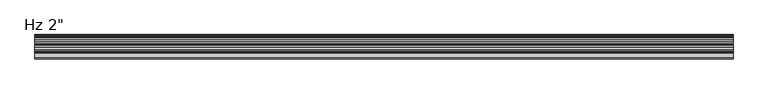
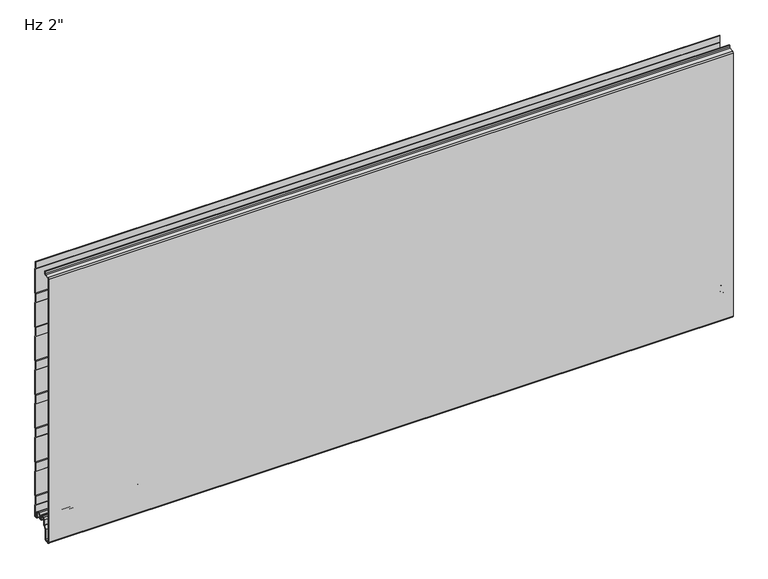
"""IFC4 building model written with IfcOpenShell, lengths in millimetres: plate geometry."""

from ifc_helpers import new_model, si_unit, point, frame, frame_2d, origin, place, context, project, spatial, polyline, circle_curve, trimmed, segment, composite_curve, outline, extrude, source, transform, mapped, element, save
from ifc_brep_helpers import plane_surface, cylinder_surface, revolved_surface, advanced_brep


def plate_7ebf2205(model_context):
    return source(origin(), model_context, "Body", "SolidModel", [
        advanced_brep(
        [(-730.0, -17.0015368, 2.0313088), (-730.0, -18.00154, 1.0313116), (-730.0, -19.0015313, 2.0313088), (-730.0, -19.0015314, 6.0315125), (-730.0, -18.0015368, 6.0315125), (-730.0, -18.0015368, 8.7237223), (-730.0, -14.7015411, 12.023718), (-730.0, -10.3015499, 12.023718), (-730.0, -7.0015544, 8.7237225), (-730.0, -7.0015544, -1.6962564), (-730.0, -5.2315602, -3.4662506), (-730.0, -1.0000126, -3.4662506), (-730.0, -1.0000126, 21.034026), (-730.0, -2.2002516, 22.4196686), (-730.0, -2.2002516, 41.7948349), (-730.0, -1.0000209, 43.1804679), (-730.0, -1.0000209, 97.2338833), (-730.0, -2.2002516, 98.6195162), (-730.0, -2.2002516, 117.9946825), (-730.0, -1.0000209, 119.3803155), (-730.0, -1.0000209, 173.4337309), (-730.0, -2.2002516, 174.8193638), (-730.0, -2.2002516, 194.1945301), (-730.0, -1.0000209, 195.5801631), (-730.0, -1.0000209, 249.6335785), (-730.0, -2.2002516, 251.0192114), (-730.0, -2.2002516, 270.3943777), (-730.0, -1.0000209, 271.7800107), (-730.0, -1.0000209, 325.8334261), (-730.0, -2.2002516, 327.219059), (-730.0, -2.2002516, 346.5942253), (-730.0, -1.0000209, 347.9798583), (-730.0, -1.0000209, 402.0332737), (-730.0, -2.2002516, 403.4189066), (-730.0, -2.2002516, 422.7940729), (-730.0, -1.0000209, 424.1797059), (-730.0, -1.0000209, 478.2331213), (-730.0, -2.2002516, 479.6187542), (-730.0, -2.2002516, 498.9939205), (-730.0, -1.0000209, 500.3795535), (-730.0, -1.0000209, 554.4329689), (-730.0, -2.2002516, 555.8186018), (-730.0, -2.2002516, 571.2), (-730.0, -1.2002516, 571.2), (-730.0, -1.2002516, 556.1914823), (-730.0, -0.3418094, 555.2004346), (-730.0, -2.09e-05, 554.2838177), (-730.0, -2.09e-05, 500.5287046), (-730.0, -0.3418094, 499.6120877), (-730.0, -1.2002516, 498.6210401), (-730.0, -1.2002516, 479.9916347), (-730.0, -0.3418094, 479.000587), (-730.0, -2.09e-05, 478.0839701), (-730.0, -2.09e-05, 424.328857), (-730.0, -0.3418094, 423.4122401), (-730.0, -1.2002516, 422.4211925), (-730.0, -1.2002516, 403.7917871), (-730.0, -0.3418094, 402.8007394), (-730.0, -2.09e-05, 401.8841225), (-730.0, -2.09e-05, 348.1290094), (-730.0, -0.3418094, 347.2123925), (-730.0, -1.2002516, 346.2213449), (-730.0, -1.2002516, 327.5919395), (-730.0, -0.3418094, 326.6008918), (-730.0, -2.09e-05, 325.6842749), (-730.0, -2.09e-05, 271.9291618), (-730.0, -0.3418094, 271.0125449), (-730.0, -1.2002516, 270.0214973), (-730.0, -1.2002516, 251.3920919), (-730.0, -0.3418094, 250.4010442), (-730.0, -2.09e-05, 249.4844273), (-730.0, -2.09e-05, 195.7293142), (-730.0, -0.3418094, 194.8126973), (-730.0, -1.2002516, 193.8216497), (-730.0, -1.2002516, 175.1922443), (-730.0, -0.3418094, 174.2011966), (-730.0, -2.09e-05, 173.2845797), (-730.0, -2.09e-05, 119.5294666), (-730.0, -0.3418094, 118.6128497), (-730.0, -1.2002516, 117.6218021), (-730.0, -1.2002516, 98.9923967), (-730.0, -0.3418094, 98.001349), (-730.0, -2.09e-05, 97.0847321), (-730.0, -2.09e-05, 43.329619), (-730.0, -0.3418094, 42.4130021), (-730.0, -1.2002516, 41.4219545), (-730.0, -1.2002516, 22.7925491), (-730.0, -0.3418094, 21.8015014), (-730.0, -2.09e-05, 20.8847931), (-730.0, -1.26e-05, -3.0662545), (-730.0, -1.4000087, -4.4662506), (-730.0, -5.2315602, -4.4662506), (-730.0, -8.0015544, -1.6962564), (-730.0, -8.0015544, 8.7237225), (-730.0, -10.3015499, 11.023718), (-730.0, -14.7015411, 11.023718), (-730.0, -17.0015368, 8.7237223), (730.0, -17.0015368, 2.0313088), (730.0, -17.0015368, 8.7237223), (730.0, -14.7015411, 11.023718), (730.0, -10.3015499, 11.023718), (730.0, -8.0015544, 8.7237225), (730.0, -8.0015544, -1.6962564), (730.0, -5.2315602, -4.4662506), (730.0, -1.4000087, -4.4662506), (730.0, -1.26e-05, -3.0662545), (730.0, -1.26e-05, 20.8848845), (730.0, -0.3418094, 21.8015014), (730.0, -1.2002516, 22.7925491), (730.0, -1.2002516, 41.4219545), (730.0, -0.3418094, 42.4130021), (730.0, -2.09e-05, 43.329619), (730.0, -2.09e-05, 97.0847321), (730.0, -0.3418094, 98.001349), (730.0, -1.2002516, 98.9923967), (730.0, -1.2002516, 117.6218021), (730.0, -0.3418094, 118.6128497), (730.0, -2.09e-05, 119.5294666), (730.0, -2.09e-05, 173.2845797), (730.0, -0.3418094, 174.2011966), (730.0, -1.2002516, 175.1922443), (730.0, -1.2002516, 193.8216497), (730.0, -0.3418094, 194.8126973), (730.0, -2.09e-05, 195.7293142), (730.0, -2.09e-05, 249.4844273), (730.0, -0.3418094, 250.4010442), (730.0, -1.2002516, 251.3920919), (730.0, -1.2002516, 270.0214973), (730.0, -0.3418094, 271.0125449), (730.0, -2.09e-05, 271.9291618), (730.0, -2.09e-05, 325.6842749), (730.0, -0.3418094, 326.6008918), (730.0, -1.2002516, 327.5919395), (730.0, -1.2002516, 346.2213449), (730.0, -0.3418094, 347.2123925), (730.0, -2.09e-05, 348.1290094), (730.0, -2.09e-05, 401.8841225), (730.0, -0.3418094, 402.8007394), (730.0, -1.2002516, 403.7917871), (730.0, -1.2002516, 422.4211925), (730.0, -0.3418094, 423.4122401), (730.0, -2.09e-05, 424.328857), (730.0, -2.09e-05, 478.0839701), (730.0, -0.3418094, 479.000587), (730.0, -1.2002516, 479.9916347), (730.0, -1.2002516, 498.6210401), (730.0, -0.3418094, 499.6120877), (730.0, -2.09e-05, 500.5287046), (730.0, -2.09e-05, 554.2838177), (730.0, -0.3418094, 555.2004346), (730.0, -1.2002516, 556.1914823), (730.0, -1.2002516, 571.2), (730.0, -2.2002516, 571.2), (730.0, -2.2002516, 555.8186018), (730.0, -1.0000209, 554.4329689), (730.0, -1.0000209, 500.3795535), (730.0, -2.2002516, 498.9939205), (730.0, -2.2002516, 479.6187542), (730.0, -1.0000209, 478.2331213), (730.0, -1.0000209, 424.1797059), (730.0, -2.2002516, 422.7940729), (730.0, -2.2002516, 403.4189066), (730.0, -1.0000209, 402.0332737), (730.0, -1.0000209, 347.9798583), (730.0, -2.2002516, 346.5942253), (730.0, -2.2002516, 327.219059), (730.0, -1.0000209, 325.8334261), (730.0, -1.0000209, 271.7800107), (730.0, -2.2002516, 270.3943777), (730.0, -2.2002516, 251.0192114), (730.0, -1.0000209, 249.6335785), (730.0, -1.0000209, 195.5801631), (730.0, -2.2002516, 194.1945301), (730.0, -2.2002516, 174.8193638), (730.0, -1.0000209, 173.4337309), (730.0, -1.0000209, 119.3803155), (730.0, -2.2002516, 117.9946825), (730.0, -2.2002516, 98.6195162), (730.0, -1.0000209, 97.2338833), (730.0, -1.0000209, 43.1804679), (730.0, -2.2002516, 41.7948349), (730.0, -2.2002516, 22.4196686), (730.0, -1.0000126, 21.034026), (730.0, -1.0000126, -3.4662506), (730.0, -5.2315602, -3.4662506), (730.0, -7.0015544, -1.6962564), (730.0, -7.0015544, 8.7237225), (730.0, -10.3015499, 12.023718), (730.0, -14.7015411, 12.023718), (730.0, -18.0015368, 8.7237223), (730.0, -18.0015368, 6.0315125), (730.0, -19.0015314, 6.0315125), (730.0, -19.0015314, 2.0313088), (730.0, -18.00154, 1.0313116)],
        [
            (0, 1, circle_curve(frame((-730.0, -18.0015341, 2.0313088), z_axis=(-1.0, 0.0, 0.0), x_axis=(0.0, 0.0, 1.0)), 0.9999973)),
            (1, 2, circle_curve(frame((-730.0, -18.0015341, 2.0313088), z_axis=(-1.0, 0.0, 0.0), x_axis=(0.0, 0.0, 1.0)), 0.9999972)),
            (2, 3),
            (3, 4),
            (4, 5),
            (5, 6, circle_curve(frame((-730.0, -14.7015411, 8.7237223), z_axis=(-1.0, 0.0, 0.0), x_axis=(0.0, 0.0, 1.0)), 3.2999957)),
            (6, 7),
            (7, 8, circle_curve(frame((-730.0, -10.3015499, 8.7237225), z_axis=(-1.0, 0.0, 0.0), x_axis=(0.0, 0.0, 1.0)), 3.2999955)),
            (8, 9),
            (9, 10, circle_curve(frame((-730.0, -5.2315602, -1.6962564), z_axis=(1.0, 0.0, 0.0), x_axis=(0.0, 0.0, 1.0)), 1.7699942)),
            (10, 11),
            (11, 12),
            (12, 13),
            (13, 14),
            (14, 15),
            (15, 16),
            (16, 17),
            (17, 18),
            (18, 19),
            (19, 20),
            (20, 21),
            (21, 22),
            (22, 23),
            (23, 24),
            (24, 25),
            (25, 26),
            (26, 27),
            (27, 28),
            (28, 29),
            (29, 30),
            (30, 31),
            (31, 32),
            (32, 33),
            (33, 34),
            (34, 35),
            (35, 36),
            (36, 37),
            (37, 38),
            (38, 39),
            (39, 40),
            (40, 41),
            (41, 42),
            (42, 43),
            (43, 44),
            (44, 45),
            (45, 46, circle_curve(frame((-730.0, -1.4000181, 554.2838177), z_axis=(-1.0, 0.0, 0.0), x_axis=(0.0, 0.0, 1.0)), 1.3999972)),
            (46, 47),
            (47, 48, circle_curve(frame((-730.0, -1.4000181, 500.5287046), z_axis=(-1.0, 0.0, 0.0), x_axis=(0.0, 0.0, 1.0)), 1.3999972)),
            (48, 49),
            (49, 50),
            (50, 51),
            (51, 52, circle_curve(frame((-730.0, -1.4000181, 478.0839701), z_axis=(-1.0, 0.0, 0.0), x_axis=(0.0, 0.0, 1.0)), 1.3999972)),
            (52, 53),
            (53, 54, circle_curve(frame((-730.0, -1.4000181, 424.328857), z_axis=(-1.0, 0.0, 0.0), x_axis=(0.0, 0.0, 1.0)), 1.3999972)),
            (54, 55),
            (55, 56),
            (56, 57),
            (57, 58, circle_curve(frame((-730.0, -1.4000181, 401.8841225), z_axis=(-1.0, 0.0, 0.0), x_axis=(0.0, 0.0, 1.0)), 1.3999972)),
            (58, 59),
            (59, 60, circle_curve(frame((-730.0, -1.4000181, 348.1290094), z_axis=(-1.0, 0.0, 0.0), x_axis=(0.0, 0.0, 1.0)), 1.3999972)),
            (60, 61),
            (61, 62),
            (62, 63),
            (63, 64, circle_curve(frame((-730.0, -1.4000181, 325.6842749), z_axis=(-1.0, 0.0, 0.0), x_axis=(0.0, 0.0, 1.0)), 1.3999972)),
            (64, 65),
            (65, 66, circle_curve(frame((-730.0, -1.4000181, 271.9291618), z_axis=(-1.0, 0.0, 0.0), x_axis=(0.0, 0.0, 1.0)), 1.3999972)),
            (66, 67),
            (67, 68),
            (68, 69),
            (69, 70, circle_curve(frame((-730.0, -1.4000181, 249.4844273), z_axis=(-1.0, 0.0, 0.0), x_axis=(0.0, 0.0, 1.0)), 1.3999972)),
            (70, 71),
            (71, 72, circle_curve(frame((-730.0, -1.4000181, 195.7293142), z_axis=(-1.0, 0.0, 0.0), x_axis=(0.0, 0.0, 1.0)), 1.3999972)),
            (72, 73),
            (73, 74),
            (74, 75),
            (75, 76, circle_curve(frame((-730.0, -1.4000181, 173.2845797), z_axis=(-1.0, 0.0, 0.0), x_axis=(0.0, 0.0, 1.0)), 1.3999972)),
            (76, 77),
            (77, 78, circle_curve(frame((-730.0, -1.4000181, 119.5294666), z_axis=(-1.0, 0.0, 0.0), x_axis=(0.0, 0.0, 1.0)), 1.3999972)),
            (78, 79),
            (79, 80),
            (80, 81),
            (81, 82, circle_curve(frame((-730.0, -1.4000181, 97.0847321), z_axis=(-1.0, 0.0, 0.0), x_axis=(0.0, 0.0, 1.0)), 1.3999972)),
            (82, 83),
            (83, 84, circle_curve(frame((-730.0, -1.4000181, 43.329619), z_axis=(-1.0, 0.0, 0.0), x_axis=(0.0, 0.0, 1.0)), 1.3999972)),
            (84, 85),
            (85, 86),
            (86, 87),
            (87, 88, circle_curve(frame((-730.0, -1.4000181, 20.8848845), z_axis=(-1.0, 0.0, 0.0), x_axis=(0.0, 0.0, 1.0)), 1.3999972)),
            (88, 89),
            (89, 90, circle_curve(frame((-730.0, -1.4000087, -3.0662545), z_axis=(-1.0, 0.0, 0.0), x_axis=(0.0, 0.0, 1.0)), 1.3999962)),
            (90, 91),
            (91, 92, circle_curve(frame((-730.0, -5.2315602, -1.6962564), z_axis=(-1.0, 0.0, 0.0), x_axis=(0.0, 0.0, 1.0)), 2.7699942)),
            (92, 93),
            (93, 94, circle_curve(frame((-730.0, -10.3015499, 8.7237225), z_axis=(1.0, 0.0, 0.0), x_axis=(0.0, 0.0, 1.0)), 2.2999955)),
            (94, 95),
            (95, 96, circle_curve(frame((-730.0, -14.7015411, 8.7237223), z_axis=(1.0, 0.0, 0.0), x_axis=(0.0, 0.0, 1.0)), 2.2999957)),
            (96, 0),
            (97, 98),
            (98, 99, circle_curve(frame((730.0, -14.7015411, 8.7237223), z_axis=(-1.0, 0.0, 0.0), x_axis=(0.0, 0.0, 1.0)), 2.2999957)),
            (99, 100),
            (100, 101, circle_curve(frame((730.0, -10.3015499, 8.7237225), z_axis=(-1.0, 0.0, 0.0), x_axis=(0.0, 0.0, 1.0)), 2.2999955)),
            (101, 102),
            (102, 103, circle_curve(frame((730.0, -5.2315602, -1.6962564), z_axis=(1.0, 0.0, 0.0), x_axis=(0.0, 0.0, 1.0)), 2.7699942)),
            (103, 104),
            (104, 105, circle_curve(frame((730.0, -1.4000087, -3.0662545), z_axis=(1.0, 0.0, 0.0), x_axis=(0.0, 0.0, 1.0)), 1.3999962)),
            (105, 106),
            (106, 107, circle_curve(frame((730.0, -1.4000181, 20.8848845), z_axis=(1.0, 0.0, 0.0), x_axis=(0.0, 0.0, 1.0)), 1.3999972)),
            (107, 108),
            (108, 109),
            (109, 110),
            (110, 111, circle_curve(frame((730.0, -1.4000181, 43.329619), z_axis=(1.0, 0.0, 0.0), x_axis=(0.0, 0.0, 1.0)), 1.3999972)),
            (111, 112),
            (112, 113, circle_curve(frame((730.0, -1.4000181, 97.0847321), z_axis=(1.0, 0.0, 0.0), x_axis=(0.0, 0.0, 1.0)), 1.3999972)),
            (113, 114),
            (114, 115),
            (115, 116),
            (116, 117, circle_curve(frame((730.0, -1.4000181, 119.5294666), z_axis=(1.0, 0.0, 0.0), x_axis=(0.0, 0.0, 1.0)), 1.3999972)),
            (117, 118),
            (118, 119, circle_curve(frame((730.0, -1.4000181, 173.2845797), z_axis=(1.0, 0.0, 0.0), x_axis=(0.0, 0.0, 1.0)), 1.3999972)),
            (119, 120),
            (120, 121),
            (121, 122),
            (122, 123, circle_curve(frame((730.0, -1.4000181, 195.7293142), z_axis=(1.0, 0.0, 0.0), x_axis=(0.0, 0.0, 1.0)), 1.3999972)),
            (123, 124),
            (124, 125, circle_curve(frame((730.0, -1.4000181, 249.4844273), z_axis=(1.0, 0.0, 0.0), x_axis=(0.0, 0.0, 1.0)), 1.3999972)),
            (125, 126),
            (126, 127),
            (127, 128),
            (128, 129, circle_curve(frame((730.0, -1.4000181, 271.9291618), z_axis=(1.0, 0.0, 0.0), x_axis=(0.0, 0.0, 1.0)), 1.3999972)),
            (129, 130),
            (130, 131, circle_curve(frame((730.0, -1.4000181, 325.6842749), z_axis=(1.0, 0.0, 0.0), x_axis=(0.0, 0.0, 1.0)), 1.3999972)),
            (131, 132),
            (132, 133),
            (133, 134),
            (134, 135, circle_curve(frame((730.0, -1.4000181, 348.1290094), z_axis=(1.0, 0.0, 0.0), x_axis=(0.0, 0.0, 1.0)), 1.3999972)),
            (135, 136),
            (136, 137, circle_curve(frame((730.0, -1.4000181, 401.8841225), z_axis=(1.0, 0.0, 0.0), x_axis=(0.0, 0.0, 1.0)), 1.3999972)),
            (137, 138),
            (138, 139),
            (139, 140),
            (140, 141, circle_curve(frame((730.0, -1.4000181, 424.328857), z_axis=(1.0, 0.0, 0.0), x_axis=(0.0, 0.0, 1.0)), 1.3999972)),
            (141, 142),
            (142, 143, circle_curve(frame((730.0, -1.4000181, 478.0839701), z_axis=(1.0, 0.0, 0.0), x_axis=(0.0, 0.0, 1.0)), 1.3999972)),
            (143, 144),
            (144, 145),
            (145, 146),
            (146, 147, circle_curve(frame((730.0, -1.4000181, 500.5287046), z_axis=(1.0, 0.0, 0.0), x_axis=(0.0, 0.0, 1.0)), 1.3999972)),
            (147, 148),
            (148, 149, circle_curve(frame((730.0, -1.4000181, 554.2838177), z_axis=(1.0, 0.0, 0.0), x_axis=(0.0, 0.0, 1.0)), 1.3999972)),
            (149, 150),
            (150, 151),
            (151, 152),
            (152, 153),
            (153, 154),
            (154, 155),
            (155, 156),
            (156, 157),
            (157, 158),
            (158, 159),
            (159, 160),
            (160, 161),
            (161, 162),
            (162, 163),
            (163, 164),
            (164, 165),
            (165, 166),
            (166, 167),
            (167, 168),
            (168, 169),
            (169, 170),
            (170, 171),
            (171, 172),
            (172, 173),
            (173, 174),
            (174, 175),
            (175, 176),
            (176, 177),
            (177, 178),
            (178, 179),
            (179, 180),
            (180, 181),
            (181, 182),
            (182, 183),
            (183, 184),
            (184, 185, circle_curve(frame((730.0, -5.2315602, -1.6962564), z_axis=(-1.0, 0.0, 0.0), x_axis=(0.0, 0.0, 1.0)), 1.7699942)),
            (185, 186),
            (186, 187, circle_curve(frame((730.0, -10.3015499, 8.7237225), z_axis=(1.0, 0.0, 0.0), x_axis=(0.0, 0.0, 1.0)), 3.2999955)),
            (187, 188),
            (188, 189, circle_curve(frame((730.0, -14.7015411, 8.7237223), z_axis=(1.0, 0.0, 0.0), x_axis=(0.0, 0.0, 1.0)), 3.2999957)),
            (189, 190),
            (190, 191),
            (191, 192),
            (192, 193, circle_curve(frame((730.0, -18.0015341, 2.0313088), z_axis=(1.0, 0.0, 0.0), x_axis=(0.0, 0.0, 1.0)), 0.9999972)),
            (193, 97, circle_curve(frame((730.0, -18.0015341, 2.0313088), z_axis=(1.0, 0.0, 0.0), x_axis=(0.0, 0.0, 1.0)), 0.9999973)),
            (96, 98),
            (97, 0),
            (95, 99),
            (94, 100),
            (93, 101),
            (92, 102),
            (91, 103),
            (90, 104),
            (89, 105),
            (88, 106),
            (70, 124),
            (123, 71),
            (87, 107),
            (86, 108),
            (85, 109),
            (83, 111),
            (110, 84),
            (81, 113),
            (112, 82),
            (66, 128),
            (127, 67),
            (122, 72),
            (121, 73),
            (76, 118),
            (117, 77),
            (69, 125),
            (68, 126),
            (65, 129),
            (116, 78),
            (79, 115),
            (114, 80),
            (75, 119),
            (74, 120),
            (2, 192),
            (191, 3),
            (1, 193),
            (64, 130),
            (63, 131),
            (62, 132),
            (61, 133),
            (60, 134),
            (59, 135),
            (58, 136),
            (31, 163),
            (162, 32),
            (30, 164),
            (29, 165),
            (28, 166),
            (27, 167),
            (26, 168),
            (25, 169),
            (24, 170),
            (23, 171),
            (22, 172),
            (21, 173),
            (20, 174),
            (19, 175),
            (18, 176),
            (17, 177),
            (16, 178),
            (15, 179),
            (14, 180),
            (13, 181),
            (12, 182),
            (11, 183),
            (10, 184),
            (9, 185),
            (8, 186),
            (7, 187),
            (6, 188),
            (5, 189),
            (4, 190),
            (42, 152),
            (151, 43),
            (161, 33),
            (57, 137),
            (56, 138),
            (55, 139),
            (54, 140),
            (53, 141),
            (52, 142),
            (51, 143),
            (50, 144),
            (49, 145),
            (48, 146),
            (47, 147),
            (46, 148),
            (45, 149),
            (44, 150),
            (41, 153),
            (40, 154),
            (39, 155),
            (38, 156),
            (37, 157),
            (36, 158),
            (35, 159),
            (34, 160),
        ],
        [
            plane_surface(frame((-730.0, -2.09e-05, 304.8), z_axis=(-1.0, 0.0, 0.0), x_axis=(0.0, 1.0, 0.0))),
            plane_surface(frame((730.0, -2.09e-05, 304.8), z_axis=(1.0, 0.0, 0.0), x_axis=(0.0, 1.0, 0.0))),
            plane_surface(frame((-730.0, -17.0015368, 2.0313088), z_axis=(0.0, 1.0, 0.0), x_axis=(1.0, 0.0, 0.0))),
            revolved_surface(polyline([(730.0, -14.7015411, 11.023718), (-730.0, -14.7015411, 11.023718)]), (-730.0, -14.7015411, 8.7237223), (1.0, 0.0, 0.0)),
            plane_surface(frame((-730.0, -14.7015411, 11.023718), z_axis=(0.0, 0.0, -1.0), x_axis=(1.0, 0.0, 0.0))),
            revolved_surface(polyline([(730.0, -10.3015499, 11.023717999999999), (-730.0, -10.3015499, 11.023717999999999)]), (-730.0, -10.3015499, 8.7237225), (1.0, 0.0, 0.0)),
            plane_surface(frame((-730.0, -8.0015544, 8.7237225), z_axis=(0.0, -1.0, 0.0), x_axis=(1.0, 0.0, 0.0))),
            cylinder_surface(frame((-730.0, -5.2315602, -1.6962564), z_axis=(-1.0, 0.0, 0.0), x_axis=(0.0, 0.0, 1.0)), 2.7699942),
            plane_surface(frame((-730.0, -5.2315602, -4.4662506), z_axis=(0.0, 0.0, -1.0), x_axis=(1.0, 0.0, 0.0))),
            cylinder_surface(frame((-730.0, -1.4000087, -3.0662545), z_axis=(-1.0, 0.0, 0.0), x_axis=(0.0, 0.0, 1.0)), 1.3999962),
            plane_surface(frame((-730.0, -1.26e-05, -3.0662545), z_axis=(0.0, 1.0, 0.0), x_axis=(1.0, 0.0, 0.0))),
            plane_surface(frame((-730.0, -2.09e-05, 195.7293142), z_axis=(0.0, 1.0, 0.0), x_axis=(1.0, 0.0, 0.0))),
            cylinder_surface(frame((-730.0, -1.4000181, 20.8848845), z_axis=(-1.0, 0.0, 0.0), x_axis=(0.0, 0.0, 1.0)), 1.3999972),
            plane_surface(frame((-730.0, -0.3418094, 21.8015014), z_axis=(0.0, 0.755864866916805, 0.6547276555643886), x_axis=(1.0, 0.0, 0.0))),
            plane_surface(frame((-730.0, -1.2002516, 32.1072518), z_axis=(0.0, 1.0, 0.0), x_axis=(1.0, 0.0, 0.0))),
            cylinder_surface(frame((-730.0, -1.4000181, 43.329619), z_axis=(-1.0, 0.0, 0.0), x_axis=(0.0, 0.0, 1.0)), 1.3999972),
            plane_surface(frame((-730.0, -1.2002516, 41.4219545), z_axis=(0.0, 0.755864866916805, -0.6547276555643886), x_axis=(1.0, 0.0, 0.0))),
            cylinder_surface(frame((-730.0, -1.4000181, 97.0847321), z_axis=(-1.0, 0.0, 0.0), x_axis=(0.0, 0.0, 1.0)), 1.3999972),
            plane_surface(frame((-730.0, -1.2002516, 270.0214973), z_axis=(0.0, 0.755864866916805, -0.6547276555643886), x_axis=(1.0, 0.0, 0.0))),
            cylinder_surface(frame((-730.0, -1.4000181, 195.7293142), z_axis=(-1.0, 0.0, 0.0), x_axis=(0.0, 0.0, 1.0)), 1.3999972),
            plane_surface(frame((-730.0, -1.2002516, 193.8216497), z_axis=(0.0, 0.755864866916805, -0.6547276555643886), x_axis=(1.0, 0.0, 0.0))),
            plane_surface(frame((-730.0, -2.09e-05, 119.5294666), z_axis=(0.0, 1.0, 0.0), x_axis=(1.0, 0.0, 0.0))),
            cylinder_surface(frame((-730.0, -1.4000181, 249.4844273), z_axis=(-1.0, 0.0, 0.0), x_axis=(0.0, 0.0, 1.0)), 1.3999972),
            plane_surface(frame((-730.0, -0.3418094, 250.4010442), z_axis=(0.0, 0.755864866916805, 0.6547276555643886), x_axis=(1.0, 0.0, 0.0))),
            plane_surface(frame((-730.0, -1.2002516, 260.7067946), z_axis=(0.0, 1.0, 0.0), x_axis=(1.0, 0.0, 0.0))),
            cylinder_surface(frame((-730.0, -1.4000181, 271.9291618), z_axis=(-1.0, 0.0, 0.0), x_axis=(0.0, 0.0, 1.0)), 1.3999972),
            cylinder_surface(frame((-730.0, -1.4000181, 119.5294666), z_axis=(-1.0, 0.0, 0.0), x_axis=(0.0, 0.0, 1.0)), 1.3999972),
            plane_surface(frame((-730.0, -1.2002516, 108.3070994), z_axis=(0.0, 1.0, 0.0), x_axis=(1.0, 0.0, 0.0))),
            plane_surface(frame((-730.0, -0.3418094, 98.001349), z_axis=(0.0, 0.755864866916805, 0.6547276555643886), x_axis=(1.0, 0.0, 0.0))),
            plane_surface(frame((-730.0, -1.2002516, 117.6218021), z_axis=(0.0, 0.755864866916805, -0.6547276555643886), x_axis=(1.0, 0.0, 0.0))),
            plane_surface(frame((-730.0, -2.09e-05, 43.329619), z_axis=(0.0, 1.0, 0.0), x_axis=(1.0, 0.0, 0.0))),
            cylinder_surface(frame((-730.0, -1.4000181, 173.2845797), z_axis=(-1.0, 0.0, 0.0), x_axis=(0.0, 0.0, 1.0)), 1.3999972),
            plane_surface(frame((-730.0, -0.3418094, 174.2011966), z_axis=(0.0, 0.755864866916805, 0.6547276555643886), x_axis=(1.0, 0.0, 0.0))),
            plane_surface(frame((-730.0, -1.2002516, 184.506947), z_axis=(0.0, 1.0, 0.0), x_axis=(1.0, 0.0, 0.0))),
            plane_surface(frame((-730.0, -19.0015314, 6.0315125), z_axis=(0.0, -1.0, 0.0), x_axis=(1.0, 0.0, 0.0))),
            cylinder_surface(frame((-730.0, -18.0015341, 2.0313088), z_axis=(-1.0, 0.0, 0.0), x_axis=(0.0, 0.0, 1.0)), 0.9999972),
            cylinder_surface(frame((-730.0, -18.0015341, 2.0313088), z_axis=(-1.0, 0.0, 0.0), x_axis=(0.0, 0.0, 1.0)), 0.9999973),
            plane_surface(frame((-730.0, -2.09e-05, 271.9291618), z_axis=(0.0, 1.0, 0.0), x_axis=(1.0, 0.0, 0.0))),
            cylinder_surface(frame((-730.0, -1.4000181, 325.6842749), z_axis=(-1.0, 0.0, 0.0), x_axis=(0.0, 0.0, 1.0)), 1.3999972),
            plane_surface(frame((-730.0, -0.3418094, 326.6008918), z_axis=(0.0, 0.755864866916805, 0.6547276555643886), x_axis=(1.0, 0.0, 0.0))),
            plane_surface(frame((-730.0, -1.2002516, 336.9066422), z_axis=(0.0, 1.0, 0.0), x_axis=(1.0, 0.0, 0.0))),
            plane_surface(frame((-730.0, -1.2002516, 346.2213449), z_axis=(0.0, 0.755864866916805, -0.6547276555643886), x_axis=(1.0, 0.0, 0.0))),
            cylinder_surface(frame((-730.0, -1.4000181, 348.1290094), z_axis=(-1.0, 0.0, 0.0), x_axis=(0.0, 0.0, 1.0)), 1.3999972),
            plane_surface(frame((-730.0, -2.09e-05, 348.1290094), z_axis=(0.0, 1.0, 0.0), x_axis=(1.0, 0.0, 0.0))),
            plane_surface(frame((-730.0, -1.0000209, 402.0332737), z_axis=(0.0, -1.0, 0.0), x_axis=(1.0, 0.0, 0.0))),
            plane_surface(frame((-730.0, -1.0000209, 347.9798583), z_axis=(0.0, -0.755864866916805, 0.6547276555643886), x_axis=(1.0, 0.0, 0.0))),
            plane_surface(frame((-730.0, -2.2002516, 346.5942253), z_axis=(0.0, -1.0, 0.0), x_axis=(1.0, 0.0, 0.0))),
            plane_surface(frame((-730.0, -2.2002516, 327.219059), z_axis=(0.0, -0.755864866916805, -0.6547276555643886), x_axis=(1.0, 0.0, 0.0))),
            plane_surface(frame((-730.0, -1.0000209, 325.8334261), z_axis=(0.0, -1.0, 0.0), x_axis=(1.0, 0.0, 0.0))),
            plane_surface(frame((-730.0, -1.0000209, 271.7800107), z_axis=(0.0, -0.755864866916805, 0.6547276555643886), x_axis=(1.0, 0.0, 0.0))),
            plane_surface(frame((-730.0, -2.2002516, 270.3943777), z_axis=(0.0, -1.0, 0.0), x_axis=(1.0, 0.0, 0.0))),
            plane_surface(frame((-730.0, -2.2002516, 251.0192114), z_axis=(0.0, -0.755864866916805, -0.6547276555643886), x_axis=(1.0, 0.0, 0.0))),
            plane_surface(frame((-730.0, -1.0000209, 249.6335785), z_axis=(0.0, -1.0, 0.0), x_axis=(1.0, 0.0, 0.0))),
            plane_surface(frame((-730.0, -1.0000209, 195.5801631), z_axis=(0.0, -0.755864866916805, 0.6547276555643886), x_axis=(1.0, 0.0, 0.0))),
            plane_surface(frame((-730.0, -2.2002516, 194.1945301), z_axis=(0.0, -1.0, 0.0), x_axis=(1.0, 0.0, 0.0))),
            plane_surface(frame((-730.0, -2.2002516, 174.8193638), z_axis=(0.0, -0.755864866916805, -0.6547276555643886), x_axis=(1.0, 0.0, 0.0))),
            plane_surface(frame((-730.0, -1.0000209, 173.4337309), z_axis=(0.0, -1.0, 0.0), x_axis=(1.0, 0.0, 0.0))),
            plane_surface(frame((-730.0, -1.0000209, 119.3803155), z_axis=(0.0, -0.755864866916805, 0.6547276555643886), x_axis=(1.0, 0.0, 0.0))),
            plane_surface(frame((-730.0, -2.2002516, 117.9946825), z_axis=(0.0, -1.0, 0.0), x_axis=(1.0, 0.0, 0.0))),
            plane_surface(frame((-730.0, -2.2002516, 98.6195162), z_axis=(0.0, -0.755864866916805, -0.6547276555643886), x_axis=(1.0, 0.0, 0.0))),
            plane_surface(frame((-730.0, -1.0000209, 97.2338833), z_axis=(0.0, -1.0, 0.0), x_axis=(1.0, 0.0, 0.0))),
            plane_surface(frame((-730.0, -1.0000209, 43.1804679), z_axis=(0.0, -0.755864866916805, 0.6547276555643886), x_axis=(1.0, 0.0, 0.0))),
            plane_surface(frame((-730.0, -2.2002516, 41.7948349), z_axis=(0.0, -1.0, 0.0), x_axis=(1.0, 0.0, 0.0))),
            plane_surface(frame((-730.0, -2.2002516, 22.4196686), z_axis=(0.0, -0.755864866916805, -0.6547276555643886), x_axis=(1.0, 0.0, 0.0))),
            plane_surface(frame((-730.0, -1.0000126, 21.034026), z_axis=(0.0, -1.0, 0.0), x_axis=(1.0, 0.0, 0.0))),
            plane_surface(frame((-730.0, -1.0000126, -3.4662506), z_axis=(0.0, 0.0, 1.0), x_axis=(1.0, 0.0, 0.0))),
            revolved_surface(polyline([(730.0, -5.2315602, 0.07373779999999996), (-730.0, -5.2315602, 0.07373779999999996)]), (-730.0, -5.2315602, -1.6962564), (1.0, 0.0, 0.0)),
            plane_surface(frame((-730.0, -7.0015544, -1.6962564), z_axis=(0.0, 1.0, 0.0), x_axis=(1.0, 0.0, 0.0))),
            cylinder_surface(frame((-730.0, -10.3015499, 8.7237225), z_axis=(-1.0, 0.0, 0.0), x_axis=(0.0, 0.0, 1.0)), 3.2999955),
            plane_surface(frame((-730.0, -10.3015499, 12.023718), z_axis=(0.0, 0.0, 1.0), x_axis=(1.0, 0.0, 0.0))),
            cylinder_surface(frame((-730.0, -14.7015411, 8.7237223), z_axis=(-1.0, 0.0, 0.0), x_axis=(0.0, 0.0, 1.0)), 3.2999957),
            plane_surface(frame((-730.0, -18.0015368, 8.7237223), z_axis=(0.0, -1.0, 0.0), x_axis=(1.0, 0.0, 0.0))),
            plane_surface(frame((-730.0, -18.0015368, 6.0315125), z_axis=(0.0, 0.0, 1.0), x_axis=(1.0, 0.0, 0.0))),
            plane_surface(frame((730.0, 9.9999791, 571.2), z_axis=(0.0, 0.0, 1.0), x_axis=(-1.0, 0.0, 0.0))),
            plane_surface(frame((-730.0, -2.2002516, 403.4189066), z_axis=(0.0, -0.755864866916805, -0.6547276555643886), x_axis=(1.0, 0.0, 0.0))),
            cylinder_surface(frame((-730.0, -1.4000181, 401.8841225), z_axis=(-1.0, 0.0, 0.0), x_axis=(0.0, 0.0, 1.0)), 1.3999972),
            plane_surface(frame((-730.0, -0.3418094, 402.8007394), z_axis=(0.0, 0.755864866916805, 0.6547276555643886), x_axis=(1.0, 0.0, 0.0))),
            plane_surface(frame((-730.0, -1.2002516, 413.1064898), z_axis=(0.0, 1.0, 0.0), x_axis=(1.0, 0.0, 0.0))),
            plane_surface(frame((-730.0, -1.2002516, 422.4211925), z_axis=(0.0, 0.755864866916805, -0.6547276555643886), x_axis=(1.0, 0.0, 0.0))),
            cylinder_surface(frame((-730.0, -1.4000181, 424.328857), z_axis=(-1.0, 0.0, 0.0), x_axis=(0.0, 0.0, 1.0)), 1.3999972),
            plane_surface(frame((-730.0, -2.09e-05, 424.328857), z_axis=(0.0, 1.0, 0.0), x_axis=(1.0, 0.0, 0.0))),
            cylinder_surface(frame((-730.0, -1.4000181, 478.0839701), z_axis=(-1.0, 0.0, 0.0), x_axis=(0.0, 0.0, 1.0)), 1.3999972),
            plane_surface(frame((-730.0, -0.3418094, 479.000587), z_axis=(0.0, 0.755864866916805, 0.6547276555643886), x_axis=(1.0, 0.0, 0.0))),
            plane_surface(frame((-730.0, -1.2002516, 489.3063374), z_axis=(0.0, 1.0, 0.0), x_axis=(1.0, 0.0, 0.0))),
            plane_surface(frame((-730.0, -1.2002516, 498.6210401), z_axis=(0.0, 0.755864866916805, -0.6547276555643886), x_axis=(1.0, 0.0, 0.0))),
            cylinder_surface(frame((-730.0, -1.4000181, 500.5287046), z_axis=(-1.0, 0.0, 0.0), x_axis=(0.0, 0.0, 1.0)), 1.3999972),
            plane_surface(frame((-730.0, -2.09e-05, 500.5287046), z_axis=(0.0, 1.0, 0.0), x_axis=(1.0, 0.0, 0.0))),
            cylinder_surface(frame((-730.0, -1.4000181, 554.2838177), z_axis=(-1.0, 0.0, 0.0), x_axis=(0.0, 0.0, 1.0)), 1.3999972),
            plane_surface(frame((-730.0, -0.3418094, 555.2004346), z_axis=(0.0, 0.755864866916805, 0.6547276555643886), x_axis=(1.0, 0.0, 0.0))),
            plane_surface(frame((-730.0, -1.2002516, 565.506185), z_axis=(0.0, 1.0, 0.0), x_axis=(1.0, 0.0, 0.0))),
            plane_surface(frame((-730.0, -2.2002516, 575.1937681), z_axis=(0.0, -1.0, 0.0), x_axis=(1.0, 0.0, 0.0))),
            plane_surface(frame((-730.0, -2.2002516, 555.8186018), z_axis=(0.0, -0.755864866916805, -0.6547276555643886), x_axis=(1.0, 0.0, 0.0))),
            plane_surface(frame((-730.0, -1.0000209, 554.4329689), z_axis=(0.0, -1.0, 0.0), x_axis=(1.0, 0.0, 0.0))),
            plane_surface(frame((-730.0, -1.0000209, 500.3795535), z_axis=(0.0, -0.755864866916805, 0.6547276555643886), x_axis=(1.0, 0.0, 0.0))),
            plane_surface(frame((-730.0, -2.2002516, 498.9939205), z_axis=(0.0, -1.0, 0.0), x_axis=(1.0, 0.0, 0.0))),
            plane_surface(frame((-730.0, -2.2002516, 479.6187542), z_axis=(0.0, -0.755864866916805, -0.6547276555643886), x_axis=(1.0, 0.0, 0.0))),
            plane_surface(frame((-730.0, -1.0000209, 478.2331213), z_axis=(0.0, -1.0, 0.0), x_axis=(1.0, 0.0, 0.0))),
            plane_surface(frame((-730.0, -1.0000209, 424.1797059), z_axis=(0.0, -0.755864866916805, 0.6547276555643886), x_axis=(1.0, 0.0, 0.0))),
            plane_surface(frame((-730.0, -2.2002516, 422.7940729), z_axis=(0.0, -1.0, 0.0), x_axis=(1.0, 0.0, 0.0))),
        ],
        [
            (0, [[1, 2, 3, 4, 5, 6, 7, 8, 9, 10, 11, 12, 13, 14, 15, 16, 17, 18, 19, 20, 21, 22, 23, 24, 25, 26, 27, 28, 29, 30, 31, 32, 33, 34, 35, 36, 37, 38, 39, 40, 41, 42, 43, 44, 45, 46, 47, 48, 49, 50, 51, 52, 53, 54, 55, 56, 57, 58, 59, 60, 61, 62, 63, 64, 65, 66, 67, 68, 69, 70, 71, 72, 73, 74, 75, 76, 77, 78, 79, 80, 81, 82, 83, 84, 85, 86, 87, 88, 89, 90, 91, 92, 93, 94, 95, 96, 97]]),
            (1, [[98, 99, 100, 101, 102, 103, 104, 105, 106, 107, 108, 109, 110, 111, 112, 113, 114, 115, 116, 117, 118, 119, 120, 121, 122, 123, 124, 125, 126, 127, 128, 129, 130, 131, 132, 133, 134, 135, 136, 137, 138, 139, 140, 141, 142, 143, 144, 145, 146, 147, 148, 149, 150, 151, 152, 153, 154, 155, 156, 157, 158, 159, 160, 161, 162, 163, 164, 165, 166, 167, 168, 169, 170, 171, 172, 173, 174, 175, 176, 177, 178, 179, 180, 181, 182, 183, 184, 185, 186, 187, 188, 189, 190, 191, 192, 193, 194]]),
            (2, [[195, -98, 196, -97]]),
            (3, [[197, -99, -195, -96]]),
            (4, [[198, -100, -197, -95]]),
            (5, [[199, -101, -198, -94]]),
            (6, [[200, -102, -199, -93]]),
            (7, [[201, -103, -200, -92]]),
            (8, [[202, -104, -201, -91]]),
            (9, [[203, -105, -202, -90]]),
            (10, [[204, -106, -203, -89]]),
            (11, [[205, -124, 206, -71]]),
            (12, [[207, -107, -204, -88]]),
            (13, [[208, -108, -207, -87]]),
            (14, [[209, -109, -208, -86]]),
            (15, [[210, -111, 211, -84]]),
            (16, [[-211, -110, -209, -85]]),
            (17, [[212, -113, 213, -82]]),
            (18, [[214, -128, 215, -67]]),
            (19, [[-206, -123, 216, -72]]),
            (20, [[-216, -122, 217, -73]]),
            (21, [[218, -118, 219, -77]]),
            (22, [[220, -125, -205, -70]]),
            (23, [[221, -126, -220, -69]]),
            (24, [[-215, -127, -221, -68]]),
            (25, [[222, -129, -214, -66]]),
            (26, [[-219, -117, 223, -78]]),
            (27, [[224, -115, 225, -80]]),
            (28, [[-225, -114, -212, -81]]),
            (29, [[-223, -116, -224, -79]]),
            (30, [[-213, -112, -210, -83]]),
            (31, [[226, -119, -218, -76]]),
            (32, [[227, -120, -226, -75]]),
            (33, [[-217, -121, -227, -74]]),
            (34, [[228, -192, 229, -3]]),
            (35, [[230, -193, -228, -2]]),
            (36, [[-196, -194, -230, -1]]),
            (37, [[231, -130, -222, -65]]),
            (38, [[232, -131, -231, -64]]),
            (39, [[233, -132, -232, -63]]),
            (40, [[234, -133, -233, -62]]),
            (41, [[235, -134, -234, -61]]),
            (42, [[236, -135, -235, -60]]),
            (43, [[237, -136, -236, -59]]),
            (44, [[238, -163, 239, -32]]),
            (45, [[240, -164, -238, -31]]),
            (46, [[241, -165, -240, -30]]),
            (47, [[242, -166, -241, -29]]),
            (48, [[243, -167, -242, -28]]),
            (49, [[244, -168, -243, -27]]),
            (50, [[245, -169, -244, -26]]),
            (51, [[246, -170, -245, -25]]),
            (52, [[247, -171, -246, -24]]),
            (53, [[248, -172, -247, -23]]),
            (54, [[249, -173, -248, -22]]),
            (55, [[250, -174, -249, -21]]),
            (56, [[251, -175, -250, -20]]),
            (57, [[252, -176, -251, -19]]),
            (58, [[253, -177, -252, -18]]),
            (59, [[254, -178, -253, -17]]),
            (60, [[255, -179, -254, -16]]),
            (61, [[256, -180, -255, -15]]),
            (62, [[257, -181, -256, -14]]),
            (63, [[258, -182, -257, -13]]),
            (64, [[259, -183, -258, -12]]),
            (65, [[260, -184, -259, -11]]),
            (66, [[261, -185, -260, -10]]),
            (67, [[262, -186, -261, -9]]),
            (68, [[263, -187, -262, -8]]),
            (69, [[264, -188, -263, -7]]),
            (70, [[265, -189, -264, -6]]),
            (71, [[266, -190, -265, -5]]),
            (72, [[-229, -191, -266, -4]]),
            (73, [[267, -152, 268, -43]]),
            (74, [[-239, -162, 269, -33]]),
            (75, [[270, -137, -237, -58]]),
            (76, [[271, -138, -270, -57]]),
            (77, [[272, -139, -271, -56]]),
            (78, [[273, -140, -272, -55]]),
            (79, [[274, -141, -273, -54]]),
            (80, [[275, -142, -274, -53]]),
            (81, [[276, -143, -275, -52]]),
            (82, [[277, -144, -276, -51]]),
            (83, [[278, -145, -277, -50]]),
            (84, [[279, -146, -278, -49]]),
            (85, [[280, -147, -279, -48]]),
            (86, [[281, -148, -280, -47]]),
            (87, [[282, -149, -281, -46]]),
            (88, [[283, -150, -282, -45]]),
            (89, [[-44, -268, -151, -283]]),
            (90, [[-153, -267, -42, 284]]),
            (91, [[285, -154, -284, -41]]),
            (92, [[286, -155, -285, -40]]),
            (93, [[287, -156, -286, -39]]),
            (94, [[288, -157, -287, -38]]),
            (95, [[289, -158, -288, -37]]),
            (96, [[290, -159, -289, -36]]),
            (97, [[291, -160, -290, -35]]),
            (98, [[-269, -161, -291, -34]]),
        ],
    ),
        extrude(outline(composite_curve([segment(trimmed(circle_curve(frame_2d((-47.2296517, -32.4521063)), 3.5702393), [point((-46.9183813, -36.0087507))], [point((-50.799891, -32.452104))], False, "CARTESIAN"), True, "CONTINUOUS"), segment(polyline([(-50.799891, -32.452104), (-50.7995114, 561.1384265)]), True, "CONTINUOUS"), segment(trimmed(circle_curve(frame_2d((-47.8495173, 561.1384246)), 2.9499941), [point((-50.7995114, 561.1384265))], [point((-48.1066263, 564.0771931))], False, "CARTESIAN"), True, "CONTINUOUS"), segment(polyline([(-48.1066263, 564.0771931), (-39.6421999, 564.8177344)]), True, "CONTINUOUS"), segment(trimmed(circle_curve(frame_2d((-39.8191257, 566.8400056)), 2.0299959), [point((-39.6421999, 564.8177344))], [point((-37.7917398, 566.9429135))], True, "CARTESIAN"), True, "CONTINUOUS"), segment(polyline([(-37.7917398, 566.9429135), (-37.7917398, 571.2), (-36.7917398, 571.2), (-36.7917398, 566.9657441)]), True, "CONTINUOUS"), segment(trimmed(circle_curve(frame_2d((-39.8191257, 566.8400056)), 3.0299959), [point((-36.7917398, 566.9657441))], [point((-39.5550441, 563.8215397))], False, "CARTESIAN"), True, "CONTINUOUS"), segment(polyline([(-39.5550441, 563.8215397), (-48.0193406, 563.0810097)]), True, "CONTINUOUS"), segment(trimmed(circle_curve(frame_2d((-47.8493874, 561.1384359)), 1.9499941), [point((-48.0193406, 563.0810097))], [point((-49.7993815, 561.1384359))], True, "CARTESIAN"), True, "CONTINUOUS"), segment(polyline([(-49.7993815, 561.1384359), (-49.7993815, -32.509446)]), True, "CONTINUOUS"), segment(trimmed(circle_curve(frame_2d((-47.2297816, -32.4521176)), 2.5702393), [point((-49.7993815, -32.509446))], [point((-47.005696, -35.0125699))], True, "CARTESIAN"), True, "CONTINUOUS"), segment(polyline([(-47.005696, -35.0125699), (-42.0238751, -34.5765709)]), True, "CONTINUOUS"), segment(trimmed(circle_curve(frame_2d((-42.5052657, -31.9198392)), 2.6999926), [point((-42.0238751, -34.5765709))], [point((-39.8052731, -31.9198392))], True, "CARTESIAN"), True, "CONTINUOUS"), segment(polyline([(-39.8052731, -31.9198392), (-39.8052731, -9.8247096), (-34.303202, -4.3226385)]), True, "CONTINUOUS"), segment(trimmed(circle_curve(frame_2d((-35.5052797, -3.1205608)), 1.6999946), [point((-34.303202, -4.3226385))], [point((-33.8052851, -3.1205608))], True, "CARTESIAN"), True, "CONTINUOUS"), segment(polyline([(-33.8052851, -3.1205608), (-33.8052851, 8.6903283)]), True, "CONTINUOUS"), segment(trimmed(circle_curve(frame_2d((-30.4552898, 8.6903283)), 3.3499953), [point((-33.8052851, 8.6903283))], [point((-30.4552898, 12.0403236))], False, "CARTESIAN"), True, "CONTINUOUS"), segment(polyline([(-30.4552898, 12.0403236), (-26.0552986, 12.0403236)]), True, "CONTINUOUS"), segment(trimmed(circle_curve(frame_2d((-26.0552986, 8.6903283)), 3.3499953), [point((-26.0552986, 12.0403236))], [point((-22.7053033, 8.6903283))], False, "CARTESIAN"), True, "CONTINUOUS"), segment(polyline([(-22.7053033, 8.6903283), (-22.7053033, 5.9912173), (-21.3068244, 5.9912173), (-21.3068244, 2.2328239)]), True, "CONTINUOUS"), segment(trimmed(circle_curve(frame_2d((-22.5068211, 2.2313092)), 1.1999976), [point((-21.3068244, 2.2328239))], [point((-22.4762992, 1.0316999))], False, "CARTESIAN"), True, "CONTINUOUS"), segment(trimmed(circle_curve(frame_2d((-22.5068211, 2.2313092)), 1.1999976), [point((-22.4762992, 1.0316999))], [point((-23.7053033, 2.1710221))], False, "CARTESIAN"), True, "CONTINUOUS"), segment(polyline([(-23.7053033, 2.1710221), (-23.7053033, 8.6903283)]), True, "CONTINUOUS"), segment(trimmed(circle_curve(frame_2d((-26.0552986, 8.6903283)), 2.3499953), [point((-23.7053033, 8.6903283))], [point((-26.0552986, 11.0403236))], True, "CARTESIAN"), True, "CONTINUOUS"), segment(polyline([(-26.0552986, 11.0403236), (-30.4552898, 11.0403236)]), True, "CONTINUOUS"), segment(trimmed(circle_curve(frame_2d((-30.4552898, 8.6903283)), 2.3499953), [point((-30.4552898, 11.0403236))], [point((-32.8052851, 8.6903283))], True, "CARTESIAN"), True, "CONTINUOUS"), segment(polyline([(-32.8052851, 8.6903283), (-32.8052851, -3.1205608)]), True, "CONTINUOUS"), segment(trimmed(circle_curve(frame_2d((-35.5052797, -3.1205608)), 2.6999946), [point((-32.8052851, -3.1205608))], [point((-33.5960952, -5.0297453))], False, "CARTESIAN"), True, "CONTINUOUS"), segment(polyline([(-33.5960952, -5.0297453), (-38.4245127, -9.8581627)]), True, "CONTINUOUS"), segment(trimmed(circle_curve(frame_2d((-37.5052757, -10.7773997)), 1.2999974), [point((-38.4245127, -9.8581627))], [point((-38.8052731, -10.7773997))], True, "CARTESIAN"), True, "CONTINUOUS"), segment(polyline([(-38.8052731, -10.7773997), (-38.8052731, -31.9198392)]), True, "CONTINUOUS"), segment(trimmed(circle_curve(frame_2d((-42.5052657, -31.9198392)), 3.6999926), [point((-38.8052731, -31.9198392))], [point((-41.8944646, -35.5690675))], False, "CARTESIAN"), True, "CONTINUOUS"), segment(polyline([(-41.8944646, -35.5690675), (-46.9183813, -36.0087507)]), True, "CONTINUOUS")], self_intersect=False)), frame((-730.0, 0.0, 0.0), z_axis=(1.0, 0.0, 0.0), x_axis=(0.0, 1.0, 0.0)), (0.0, 0.0, 1.0), 1460.0),
    ])


if __name__ == "__main__":
    model = new_model("IFC4")
    model_context = context("Model", 3, world=origin())
    ifc_project = project(units=[si_unit("LENGTHUNIT", "METRE", prefix="MILLI")], contexts=[model_context])
    site = spatial("IfcSite", under=ifc_project)
    building = spatial("IfcBuilding", under=site)
    placement = place(None, origin())
    plate_shape = plate_7ebf2205(model_context)
    element("IfcPlate", 1, ObjectType="KIP-24-Karrier-KP-R19-CP-Hz-FL3-8in_SL : Hz 2\"", at=placement, inside=building, context=model_context, shape_type="MappedRepresentation", body=[
        mapped(plate_shape, transform((0.0, 0.0, 0.0), x_axis=(1.0, 0.0, 0.0), y_axis=(0.0, 1.0, 0.0), z_axis=(0.0, 0.0, 1.0))),
    ])
    save(model, "model.ifc")
